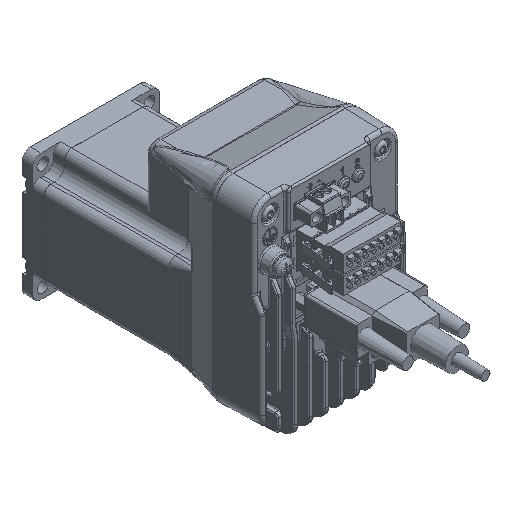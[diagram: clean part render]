
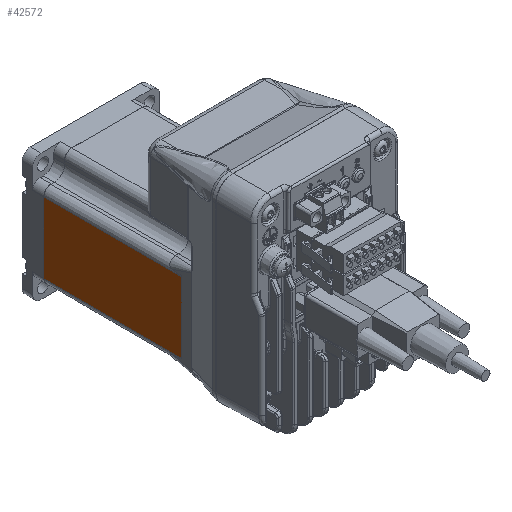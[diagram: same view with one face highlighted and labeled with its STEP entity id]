
A CAD part, isometric view. The second image highlights one B-rep face of the part: STEP entity #42572.
In plain terms, the highlighted planar face has unit normal (-1, 0.002, 0).
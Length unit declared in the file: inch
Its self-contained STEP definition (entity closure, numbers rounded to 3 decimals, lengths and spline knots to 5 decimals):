
#41736=CARTESIAN_POINT('',(-1.1149,1.4112,0.61853));
#41737=VERTEX_POINT('',#41736);
#41745=CARTESIAN_POINT('',(-1.1149,1.4112,-0.61853));
#41746=VERTEX_POINT('',#41745);
#41747=CARTESIAN_POINT('',(-1.1149,1.4112,-0.5836));
#41748=DIRECTION('',(0.,0.,-1.));
#41749=VECTOR('',#41748,1.);
#41750=LINE('',#41747,#41749);
#41751=EDGE_CURVE('',#41737,#41746,#41750,.T.);
#42542=CARTESIAN_POINT('',(-1.11048,3.82905,-0.61853));
#42543=VERTEX_POINT('',#42542);
#42544=CARTESIAN_POINT('',(-1.11048,3.82905,0.61853));
#42545=VERTEX_POINT('',#42544);
#42546=CARTESIAN_POINT('',(-1.11048,3.82905,-1.0718));
#42547=DIRECTION('',(0.,0.,1.));
#42548=VECTOR('',#42547,1.);
#42549=LINE('',#42546,#42548);
#42550=EDGE_CURVE('',#42543,#42545,#42549,.T.);
#42551=ORIENTED_EDGE('',*,*,#42550,.F.);
#42552=CARTESIAN_POINT('',(-1.11057,3.77855,-0.61853));
#42553=DIRECTION('',(-0.002,-1.,0.));
#42554=VECTOR('',#42553,1.);
#42555=LINE('',#42552,#42554);
#42556=EDGE_CURVE('',#42543,#41746,#42555,.T.);
#42557=ORIENTED_EDGE('',*,*,#42556,.T.);
#42558=ORIENTED_EDGE('',*,*,#41751,.F.);
#42559=CARTESIAN_POINT('',(-1.11057,3.77855,0.61853));
#42560=DIRECTION('',(-0.002,-1.,0.));
#42561=VECTOR('',#42560,1.);
#42562=LINE('',#42559,#42561);
#42563=EDGE_CURVE('',#42545,#41737,#42562,.T.);
#42564=ORIENTED_EDGE('',*,*,#42563,.F.);
#42565=EDGE_LOOP('',(#42551,#42557,#42558,#42564));
#42566=FACE_OUTER_BOUND('',#42565,.T.);
#42567=CARTESIAN_POINT('',(-1.11057,3.77855,-0.61853));
#42568=DIRECTION('',(-1.,0.002,0.));
#42569=DIRECTION('',(0.,0.,-1.));
#42570=AXIS2_PLACEMENT_3D('',#42567,#42568,#42569);
#42571=PLANE('',#42570);
#42572=ADVANCED_FACE('',(#42566),#42571,.T.);
